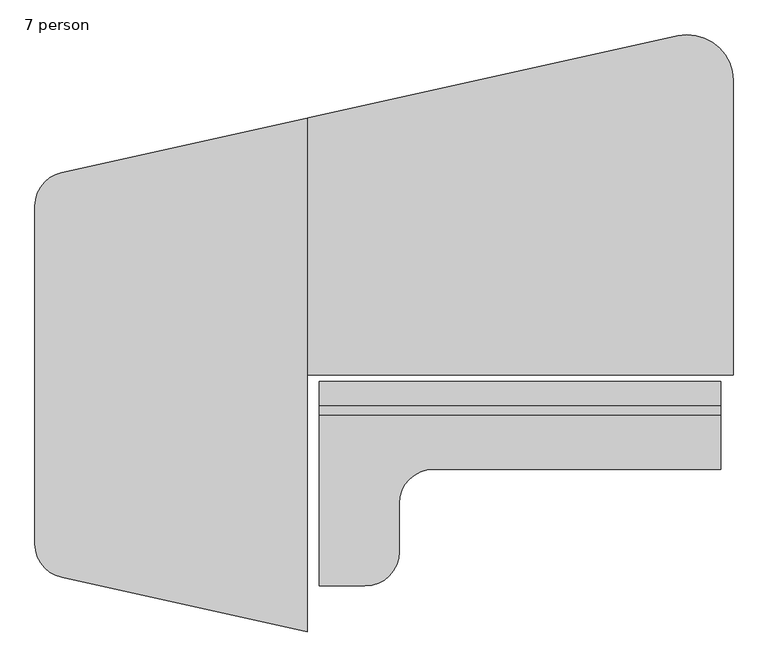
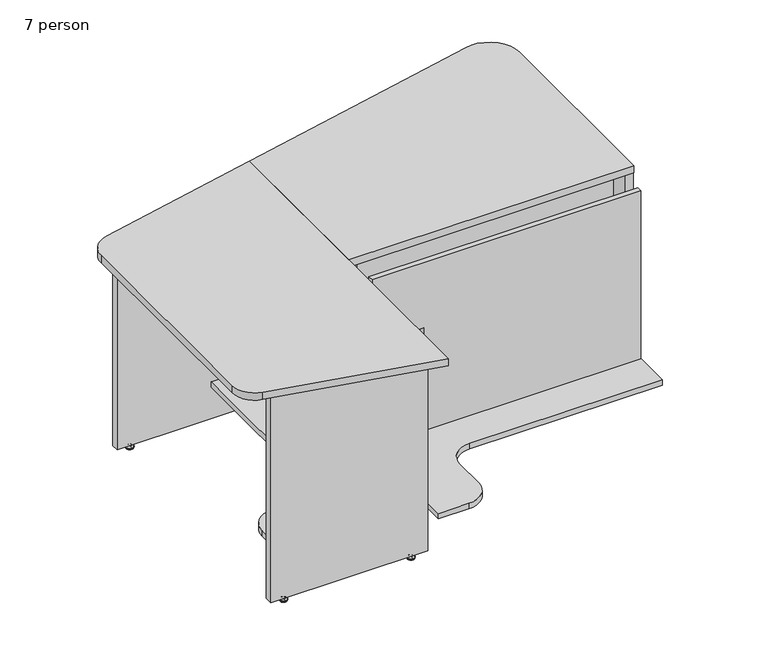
"""IFC4 building model written with IfcOpenShell, lengths in millimetres: furniture geometry, Nova Solutions - Collaboration Table - Keystone_6-7 person : 7 person."""

from ifc_helpers import new_model, si_unit, point, frame, frame_2d, origin, place, context, project, spatial, polyline, circle_curve, ellipse_curve, trimmed, segment, composite_curve, outline, extrude, source, transform, mapped, element, save
from ifc_brep_helpers import plane_surface, cylinder_surface, revolved_surface, advanced_brep


def furniture_7_person_f9d7e863(model_context):
    return source(origin(), model_context, "Body", "SolidModel", [
        extrude(outline(polyline([(430.1, 736.3), (430.1, 145.5), (-259.1, 145.5), (-259.1, 507.4), (-430.1, 507.4), (-430.1, 736.3), (430.1, 736.3)])), frame((-1506.438, 0.0, 0.0), z_axis=(1.0, 0.0, 0.0), x_axis=(0.0, 1.0, 0.0)), (0.0, 0.0, 1.0), 19.2),
        extrude(outline(composite_curve([segment(polyline([(-1431.938, 430.1), (-1431.938, -430.1), (-1875.1005, -430.1), (-1875.1005, -290.3)]), True, "CONTINUOUS"), segment(trimmed(circle_curve(frame_2d((-1798.9005, -290.3)), 76.2), [point((-1875.1005, -290.3))], [point((-1798.9005, -214.1))], False, "CARTESIAN"), True, "CONTINUOUS"), segment(polyline([(-1798.9005, -214.1), (-1704.438, -214.1)]), True, "CONTINUOUS"), segment(trimmed(circle_curve(frame_2d((-1704.438, -137.9)), 76.2), [point((-1704.438, -214.1))], [point((-1628.238, -137.9))], True, "CARTESIAN"), True, "CONTINUOUS"), segment(polyline([(-1628.238, -137.9), (-1628.238, 430.1), (-1431.938, 430.1)]), True, "CONTINUOUS")], self_intersect=False)), frame((0.0, 0.0, 126.3), z_axis=(0.0, 0.0, 1.0), x_axis=(1.0, 0.0, 0.0)), (0.0, 0.0, 1.0), 19.2),
        advanced_brep(
        [(-1892.2239375, 449.6276506, 11.1125), (-1892.2239375, 442.95, 11.1125), (-1892.2239375, 436.2723494, 11.1125), (-1892.2239375, 449.6276506, 9.525), (-1892.2239375, 436.2723494, 9.525), (-1892.2239375, 454.8355135, 4.7748687), (-1892.2239375, 431.0644865, 4.7748687), (-1892.2239375, 455.6966506, 3.989419), (-1892.2239375, 430.2033494, 3.989419), (-1892.2239375, 455.6966506, 3.175), (-1892.2239375, 430.2033494, 3.175), (-1892.2239375, 454.8459119, 0.0), (-1892.2239375, 431.0540881, 0.0), (-1892.2239375, 442.95, 0.0)],
        [
            (0, 1),
            (1, 2),
            (2, 0, circle_curve(frame((-1892.2239375, 442.95, 11.1125), z_axis=(0.0, 0.0, 1.0), x_axis=(0.0, -1.0, 0.0)), 6.6776506)),
            (0, 2, circle_curve(frame((-1892.2239375, 442.95, 11.1125), z_axis=(0.0, 0.0, 1.0), x_axis=(0.0, -1.0, 0.0)), 6.6776506)),
            (3, 0),
            (2, 4),
            (4, 3, circle_curve(frame((-1892.2239375, 442.95, 9.525), z_axis=(0.0, 0.0, 1.0), x_axis=(0.0, -1.0, 0.0)), 6.6776506)),
            (3, 4, circle_curve(frame((-1892.2239375, 442.95, 9.525), z_axis=(0.0, 0.0, 1.0), x_axis=(0.0, -1.0, 0.0)), 6.6776506)),
            (5, 3, circle_curve(frame((-1892.2239375, 455.8820627, 11.1521822), z_axis=(-1.0, 0.0, 0.0), x_axis=(0.0, -1.0, 0.0)), 6.462615)),
            (4, 6, circle_curve(frame((-1892.2239375, 430.0179373, 11.1521822), z_axis=(-1.0, 0.0, 0.0), x_axis=(0.0, 1.0, 0.0)), 6.462615)),
            (6, 5, circle_curve(frame((-1892.2239375, 442.95, 4.7748687), z_axis=(0.0, 0.0, 1.0), x_axis=(0.0, -1.0, 0.0)), 11.8855135)),
            (5, 6, circle_curve(frame((-1892.2239375, 442.95, 4.7748687), z_axis=(0.0, 0.0, 1.0), x_axis=(0.0, -1.0, 0.0)), 11.8855135)),
            (7, 5, circle_curve(frame((-1892.2239375, 454.6624632, 3.7203591), z_axis=(1.0, 0.0, 0.0), x_axis=(0.0, -1.0, 0.0)), 1.0686145)),
            (6, 8, circle_curve(frame((-1892.2239375, 431.2375368, 3.7203591), z_axis=(1.0, 0.0, 0.0), x_axis=(0.0, 1.0, 0.0)), 1.0686145)),
            (8, 7, circle_curve(frame((-1892.2239375, 442.95, 3.989419), z_axis=(0.0, 0.0, 1.0), x_axis=(0.0, -1.0, 0.0)), 12.7466506)),
            (7, 8, circle_curve(frame((-1892.2239375, 442.95, 3.989419), z_axis=(0.0, 0.0, 1.0), x_axis=(0.0, -1.0, 0.0)), 12.7466506)),
            (9, 7),
            (8, 10),
            (10, 9, circle_curve(frame((-1892.2239375, 442.95, 3.175), z_axis=(0.0, 0.0, 1.0), x_axis=(0.0, -1.0, 0.0)), 12.7466506)),
            (9, 10, circle_curve(frame((-1892.2239375, 442.95, 3.175), z_axis=(0.0, 0.0, 1.0), x_axis=(0.0, -1.0, 0.0)), 12.7466506)),
            (11, 9),
            (10, 12),
            (12, 11, circle_curve(frame((-1892.2239375, 442.95, 0.0), z_axis=(0.0, 0.0, 1.0), x_axis=(0.0, -1.0, 0.0)), 11.8959119)),
            (11, 12, circle_curve(frame((-1892.2239375, 442.95, 0.0), z_axis=(0.0, 0.0, 1.0), x_axis=(0.0, -1.0, 0.0)), 11.8959119)),
            (13, 11),
            (12, 13),
        ],
        [
            plane_surface(frame((-1892.2239375, 442.95, 11.1125), z_axis=(0.0, 0.0, 1.0), x_axis=(0.0, -1.0, 0.0))),
            cylinder_surface(frame((-1892.2239375, 442.95, 43.2095994), z_axis=(0.0, 0.0, -1.0), x_axis=(0.0, -1.0, 0.0)), 6.6776506),
            revolved_surface(trimmed(ellipse_curve(frame((-1892.2239375, 430.0179373, 11.1521822), z_axis=(-1.0, 0.0, 0.0), x_axis=(0.0, 1.0, 0.0)), 6.462615, 6.462615), [point((-1892.2239375, 436.2723494, 9.525))], [point((-1892.2239375, 431.0644865, 4.7748687))], True, "CARTESIAN"), (-1892.2239375, 442.95, 43.2095994), (0.0, 0.0, -1.0)),
            revolved_surface(trimmed(ellipse_curve(frame((-1892.2239375, 431.2375368, 3.7203591), z_axis=(1.0, 0.0, 0.0), x_axis=(0.0, 1.0, 0.0)), 1.0686145, 1.0686145), [point((-1892.2239375, 431.0644865, 4.7748687))], [point((-1892.2239375, 430.2033494, 3.989419))], True, "CARTESIAN"), (-1892.2239375, 442.95, 43.2095994), (0.0, 0.0, -1.0)),
            cylinder_surface(frame((-1892.2239375, 442.95, 43.2095994), z_axis=(0.0, 0.0, -1.0), x_axis=(0.0, -1.0, 0.0)), 12.7466506),
            revolved_surface(polyline([(-1892.2239375, 430.2033494, 3.175), (-1892.2239375, 431.0540881, 0.0)]), (-1892.2239375, 442.95, 43.2095994), (0.0, 0.0, -1.0)),
            plane_surface(frame((-1892.2239375, 442.95, 0.0), z_axis=(0.0, 0.0, -1.0), x_axis=(0.0, -1.0, 0.0))),
        ],
        [
            (0, [[1, 2, 3]]),
            (0, [[-2, -1, 4]]),
            (1, [[5, -3, 6, 7]]),
            (1, [[-6, -4, -5, 8]]),
            (2, [[9, -7, 10, 11]]),
            (2, [[-10, -8, -9, 12]]),
            (3, [[13, -11, 14, 15]]),
            (3, [[-14, -12, -13, 16]]),
            (4, [[17, -15, 18, 19]]),
            (4, [[-18, -16, -17, 20]]),
            (5, [[21, -19, 22, 23]]),
            (5, [[-22, -20, -21, 24]]),
            (6, [[25, -23, 26]]),
            (6, [[-26, -24, -25]]),
        ],
    ),
        advanced_brep(
        [(-1468.2520625, 449.6276506, 11.1125), (-1468.2520625, 442.95, 11.1125), (-1468.2520625, 436.2723494, 11.1125), (-1468.2520625, 449.6276506, 9.525), (-1468.2520625, 436.2723494, 9.525), (-1468.2520625, 454.8355135, 4.7748687), (-1468.2520625, 431.0644865, 4.7748687), (-1468.2520625, 455.6966506, 3.989419), (-1468.2520625, 430.2033494, 3.989419), (-1468.2520625, 455.6966506, 3.175), (-1468.2520625, 430.2033494, 3.175), (-1468.2520625, 454.8459119, 0.0), (-1468.2520625, 431.0540881, 0.0), (-1468.2520625, 442.95, 0.0)],
        [
            (0, 1),
            (1, 2),
            (2, 0, circle_curve(frame((-1468.2520625, 442.95, 11.1125), z_axis=(0.0, 0.0, 1.0), x_axis=(0.0, -1.0, 0.0)), 6.6776506)),
            (0, 2, circle_curve(frame((-1468.2520625, 442.95, 11.1125), z_axis=(0.0, 0.0, 1.0), x_axis=(0.0, -1.0, 0.0)), 6.6776506)),
            (3, 0),
            (2, 4),
            (4, 3, circle_curve(frame((-1468.2520625, 442.95, 9.525), z_axis=(0.0, 0.0, 1.0), x_axis=(0.0, -1.0, 0.0)), 6.6776506)),
            (3, 4, circle_curve(frame((-1468.2520625, 442.95, 9.525), z_axis=(0.0, 0.0, 1.0), x_axis=(0.0, -1.0, 0.0)), 6.6776506)),
            (5, 3, circle_curve(frame((-1468.2520625, 455.8820627, 11.1521822), z_axis=(-1.0, 0.0, 0.0), x_axis=(0.0, -1.0, 0.0)), 6.462615)),
            (4, 6, circle_curve(frame((-1468.2520625, 430.0179373, 11.1521822), z_axis=(-1.0, 0.0, 0.0), x_axis=(0.0, 1.0, 0.0)), 6.462615)),
            (6, 5, circle_curve(frame((-1468.2520625, 442.95, 4.7748687), z_axis=(0.0, 0.0, 1.0), x_axis=(0.0, -1.0, 0.0)), 11.8855135)),
            (5, 6, circle_curve(frame((-1468.2520625, 442.95, 4.7748687), z_axis=(0.0, 0.0, 1.0), x_axis=(0.0, -1.0, 0.0)), 11.8855135)),
            (7, 5, circle_curve(frame((-1468.2520625, 454.6624632, 3.7203591), z_axis=(1.0, 0.0, 0.0), x_axis=(0.0, -1.0, 0.0)), 1.0686145)),
            (6, 8, circle_curve(frame((-1468.2520625, 431.2375368, 3.7203591), z_axis=(1.0, 0.0, 0.0), x_axis=(0.0, 1.0, 0.0)), 1.0686145)),
            (8, 7, circle_curve(frame((-1468.2520625, 442.95, 3.989419), z_axis=(0.0, 0.0, 1.0), x_axis=(0.0, -1.0, 0.0)), 12.7466506)),
            (7, 8, circle_curve(frame((-1468.2520625, 442.95, 3.989419), z_axis=(0.0, 0.0, 1.0), x_axis=(0.0, -1.0, 0.0)), 12.7466506)),
            (9, 7),
            (8, 10),
            (10, 9, circle_curve(frame((-1468.2520625, 442.95, 3.175), z_axis=(0.0, 0.0, 1.0), x_axis=(0.0, -1.0, 0.0)), 12.7466506)),
            (9, 10, circle_curve(frame((-1468.2520625, 442.95, 3.175), z_axis=(0.0, 0.0, 1.0), x_axis=(0.0, -1.0, 0.0)), 12.7466506)),
            (11, 9),
            (10, 12),
            (12, 11, circle_curve(frame((-1468.2520625, 442.95, 0.0), z_axis=(0.0, 0.0, 1.0), x_axis=(0.0, -1.0, 0.0)), 11.8959119)),
            (11, 12, circle_curve(frame((-1468.2520625, 442.95, 0.0), z_axis=(0.0, 0.0, 1.0), x_axis=(0.0, -1.0, 0.0)), 11.8959119)),
            (13, 11),
            (12, 13),
        ],
        [
            plane_surface(frame((-1468.2520625, 442.95, 11.1125), z_axis=(0.0, 0.0, 1.0), x_axis=(0.0, -1.0, 0.0))),
            cylinder_surface(frame((-1468.2520625, 442.95, 43.2095994), z_axis=(0.0, 0.0, -1.0), x_axis=(0.0, -1.0, 0.0)), 6.6776506),
            revolved_surface(trimmed(ellipse_curve(frame((-1468.2520625, 430.0179373, 11.1521822), z_axis=(-1.0, 0.0, 0.0), x_axis=(0.0, 1.0, 0.0)), 6.462615, 6.462615), [point((-1468.2520625, 436.2723494, 9.525))], [point((-1468.2520625, 431.0644865, 4.7748687))], True, "CARTESIAN"), (-1468.2520625, 442.95, 43.2095994), (0.0, 0.0, -1.0)),
            revolved_surface(trimmed(ellipse_curve(frame((-1468.2520625, 431.2375368, 3.7203591), z_axis=(1.0, 0.0, 0.0), x_axis=(0.0, 1.0, 0.0)), 1.0686145, 1.0686145), [point((-1468.2520625, 431.0644865, 4.7748687))], [point((-1468.2520625, 430.2033494, 3.989419))], True, "CARTESIAN"), (-1468.2520625, 442.95, 43.2095994), (0.0, 0.0, -1.0)),
            cylinder_surface(frame((-1468.2520625, 442.95, 43.2095994), z_axis=(0.0, 0.0, -1.0), x_axis=(0.0, -1.0, 0.0)), 12.7466506),
            revolved_surface(polyline([(-1468.2520625, 430.2033494, 3.175), (-1468.2520625, 431.0540881, 0.0)]), (-1468.2520625, 442.95, 43.2095994), (0.0, 0.0, -1.0)),
            plane_surface(frame((-1468.2520625, 442.95, 0.0), z_axis=(0.0, 0.0, -1.0), x_axis=(0.0, -1.0, 0.0))),
        ],
        [
            (0, [[1, 2, 3]]),
            (0, [[-2, -1, 4]]),
            (1, [[5, -3, 6, 7]]),
            (1, [[-6, -4, -5, 8]]),
            (2, [[9, -7, 10, 11]]),
            (2, [[-10, -8, -9, 12]]),
            (3, [[13, -11, 14, 15]]),
            (3, [[-14, -12, -13, 16]]),
            (4, [[17, -15, 18, 19]]),
            (4, [[-18, -16, -17, 20]]),
            (5, [[21, -19, 22, 23]]),
            (5, [[-22, -20, -21, 24]]),
            (6, [[25, -23, 26]]),
            (6, [[-26, -24, -25]]),
        ],
    ),
        extrude(outline(polyline([(-1419.238, 455.8), (-1419.238, 430.1), (-1941.238, 430.1), (-1941.238, 455.8), (-1419.238, 455.8)])), frame((0.0, 0.0, 15.6), z_axis=(0.0, 0.0, 1.0), x_axis=(1.0, 0.0, 0.0)), (0.0, 0.0, 1.0), 720.7),
        advanced_brep(
        [(-1892.2239375, -449.6276506, 11.1125), (-1892.2239375, -436.2723494, 11.1125), (-1892.2239375, -442.95, 11.1125), (-1892.2239375, -449.6276506, 9.525), (-1892.2239375, -436.2723494, 9.525), (-1892.2239375, -454.8355135, 4.7748687), (-1892.2239375, -431.0644865, 4.7748687), (-1892.2239375, -455.6966506, 3.989419), (-1892.2239375, -430.2033494, 3.989419), (-1892.2239375, -455.6966506, 3.175), (-1892.2239375, -430.2033494, 3.175), (-1892.2239375, -454.8459119, 0.0), (-1892.2239375, -431.0540881, 0.0), (-1892.2239375, -442.95, 0.0)],
        [
            (0, 1, circle_curve(frame((-1892.2239375, -442.95, 11.1125), z_axis=(0.0, 0.0, 1.0), x_axis=(0.0, 1.0, 0.0)), 6.6776506)),
            (1, 2),
            (2, 0),
            (1, 0, circle_curve(frame((-1892.2239375, -442.95, 11.1125), z_axis=(0.0, 0.0, 1.0), x_axis=(0.0, 1.0, 0.0)), 6.6776506)),
            (3, 4, circle_curve(frame((-1892.2239375, -442.95, 9.525), z_axis=(0.0, 0.0, 1.0), x_axis=(0.0, 1.0, 0.0)), 6.6776506)),
            (4, 1),
            (0, 3),
            (4, 3, circle_curve(frame((-1892.2239375, -442.95, 9.525), z_axis=(0.0, 0.0, 1.0), x_axis=(0.0, 1.0, 0.0)), 6.6776506)),
            (5, 6, circle_curve(frame((-1892.2239375, -442.95, 4.7748687), z_axis=(0.0, 0.0, 1.0), x_axis=(0.0, 1.0, 0.0)), 11.8855135)),
            (6, 4, circle_curve(frame((-1892.2239375, -430.0179373, 11.1521822), z_axis=(-1.0, 0.0, 0.0), x_axis=(0.0, -1.0, 0.0)), 6.462615)),
            (3, 5, circle_curve(frame((-1892.2239375, -455.8820627, 11.1521822), z_axis=(-1.0, 0.0, 0.0), x_axis=(0.0, 1.0, 0.0)), 6.462615)),
            (6, 5, circle_curve(frame((-1892.2239375, -442.95, 4.7748687), z_axis=(0.0, 0.0, 1.0), x_axis=(0.0, 1.0, 0.0)), 11.8855135)),
            (7, 8, circle_curve(frame((-1892.2239375, -442.95, 3.989419), z_axis=(0.0, 0.0, 1.0), x_axis=(0.0, 1.0, 0.0)), 12.7466506)),
            (8, 6, circle_curve(frame((-1892.2239375, -431.2375368, 3.7203591), z_axis=(1.0, 0.0, 0.0), x_axis=(0.0, -1.0, 0.0)), 1.0686145)),
            (5, 7, circle_curve(frame((-1892.2239375, -454.6624632, 3.7203591), z_axis=(1.0, 0.0, 0.0), x_axis=(0.0, 1.0, 0.0)), 1.0686145)),
            (8, 7, circle_curve(frame((-1892.2239375, -442.95, 3.989419), z_axis=(0.0, 0.0, 1.0), x_axis=(0.0, 1.0, 0.0)), 12.7466506)),
            (9, 10, circle_curve(frame((-1892.2239375, -442.95, 3.175), z_axis=(0.0, 0.0, 1.0), x_axis=(0.0, 1.0, 0.0)), 12.7466506)),
            (10, 8),
            (7, 9),
            (10, 9, circle_curve(frame((-1892.2239375, -442.95, 3.175), z_axis=(0.0, 0.0, 1.0), x_axis=(0.0, 1.0, 0.0)), 12.7466506)),
            (11, 12, circle_curve(frame((-1892.2239375, -442.95, 0.0), z_axis=(0.0, 0.0, 1.0), x_axis=(0.0, 1.0, 0.0)), 11.8959119)),
            (12, 10),
            (9, 11),
            (12, 11, circle_curve(frame((-1892.2239375, -442.95, 0.0), z_axis=(0.0, 0.0, 1.0), x_axis=(0.0, 1.0, 0.0)), 11.8959119)),
            (13, 12),
            (11, 13),
        ],
        [
            plane_surface(frame((-1892.2239375, -442.95, 11.1125), z_axis=(0.0, 0.0, 1.0), x_axis=(0.0, 1.0, 0.0))),
            cylinder_surface(frame((-1892.2239375, -442.95, 43.2095994), z_axis=(0.0, 0.0, -1.0), x_axis=(0.0, 1.0, 0.0)), 6.6776506),
            revolved_surface(trimmed(ellipse_curve(frame((-1892.2239375, -430.0179373, 11.1521822), z_axis=(1.0, 0.0, 0.0), x_axis=(0.0, -1.0, 0.0)), 6.462615, 6.462615), [point((-1892.2239375, -436.2723494, 9.525))], [point((-1892.2239375, -431.0644865, 4.7748687))], True, "CARTESIAN"), (-1892.2239375, -442.95, 43.2095994), (0.0, 0.0, -1.0)),
            revolved_surface(trimmed(ellipse_curve(frame((-1892.2239375, -431.2375368, 3.7203591), z_axis=(-1.0, 0.0, 0.0), x_axis=(0.0, -1.0, 0.0)), 1.0686145, 1.0686145), [point((-1892.2239375, -431.0644865, 4.7748687))], [point((-1892.2239375, -430.2033494, 3.989419))], True, "CARTESIAN"), (-1892.2239375, -442.95, 43.2095994), (0.0, 0.0, -1.0)),
            cylinder_surface(frame((-1892.2239375, -442.95, 43.2095994), z_axis=(0.0, 0.0, -1.0), x_axis=(0.0, 1.0, 0.0)), 12.7466506),
            revolved_surface(polyline([(-1892.2239375, -430.2033494, 3.175), (-1892.2239375, -431.0540881, 0.0)]), (-1892.2239375, -442.95, 43.2095994), (0.0, 0.0, -1.0)),
            plane_surface(frame((-1892.2239375, -442.95, 0.0), z_axis=(0.0, 0.0, -1.0), x_axis=(0.0, 1.0, 0.0))),
        ],
        [
            (0, [[1, 2, 3]]),
            (0, [[4, -3, -2]]),
            (1, [[5, 6, -1, 7]]),
            (1, [[8, -7, -4, -6]]),
            (2, [[9, 10, -5, 11]]),
            (2, [[12, -11, -8, -10]]),
            (3, [[13, 14, -9, 15]]),
            (3, [[16, -15, -12, -14]]),
            (4, [[17, 18, -13, 19]]),
            (4, [[20, -19, -16, -18]]),
            (5, [[21, 22, -17, 23]]),
            (5, [[24, -23, -20, -22]]),
            (6, [[25, -21, 26]]),
            (6, [[-26, -24, -25]]),
        ],
    ),
        advanced_brep(
        [(-1468.2520625, -449.6276506, 11.1125), (-1468.2520625, -436.2723494, 11.1125), (-1468.2520625, -442.95, 11.1125), (-1468.2520625, -449.6276506, 9.525), (-1468.2520625, -436.2723494, 9.525), (-1468.2520625, -454.8355135, 4.7748687), (-1468.2520625, -431.0644865, 4.7748687), (-1468.2520625, -455.6966506, 3.989419), (-1468.2520625, -430.2033494, 3.989419), (-1468.2520625, -455.6966506, 3.175), (-1468.2520625, -430.2033494, 3.175), (-1468.2520625, -454.8459119, 0.0), (-1468.2520625, -431.0540881, 0.0), (-1468.2520625, -442.95, 0.0)],
        [
            (0, 1, circle_curve(frame((-1468.2520625, -442.95, 11.1125), z_axis=(0.0, 0.0, 1.0), x_axis=(0.0, 1.0, 0.0)), 6.6776506)),
            (1, 2),
            (2, 0),
            (1, 0, circle_curve(frame((-1468.2520625, -442.95, 11.1125), z_axis=(0.0, 0.0, 1.0), x_axis=(0.0, 1.0, 0.0)), 6.6776506)),
            (3, 4, circle_curve(frame((-1468.2520625, -442.95, 9.525), z_axis=(0.0, 0.0, 1.0), x_axis=(0.0, 1.0, 0.0)), 6.6776506)),
            (4, 1),
            (0, 3),
            (4, 3, circle_curve(frame((-1468.2520625, -442.95, 9.525), z_axis=(0.0, 0.0, 1.0), x_axis=(0.0, 1.0, 0.0)), 6.6776506)),
            (5, 6, circle_curve(frame((-1468.2520625, -442.95, 4.7748687), z_axis=(0.0, 0.0, 1.0), x_axis=(0.0, 1.0, 0.0)), 11.8855135)),
            (6, 4, circle_curve(frame((-1468.2520625, -430.0179373, 11.1521822), z_axis=(-1.0, 0.0, 0.0), x_axis=(0.0, -1.0, 0.0)), 6.462615)),
            (3, 5, circle_curve(frame((-1468.2520625, -455.8820627, 11.1521822), z_axis=(-1.0, 0.0, 0.0), x_axis=(0.0, 1.0, 0.0)), 6.462615)),
            (6, 5, circle_curve(frame((-1468.2520625, -442.95, 4.7748687), z_axis=(0.0, 0.0, 1.0), x_axis=(0.0, 1.0, 0.0)), 11.8855135)),
            (7, 8, circle_curve(frame((-1468.2520625, -442.95, 3.989419), z_axis=(0.0, 0.0, 1.0), x_axis=(0.0, 1.0, 0.0)), 12.7466506)),
            (8, 6, circle_curve(frame((-1468.2520625, -431.2375368, 3.7203591), z_axis=(1.0, 0.0, 0.0), x_axis=(0.0, -1.0, 0.0)), 1.0686145)),
            (5, 7, circle_curve(frame((-1468.2520625, -454.6624632, 3.7203591), z_axis=(1.0, 0.0, 0.0), x_axis=(0.0, 1.0, 0.0)), 1.0686145)),
            (8, 7, circle_curve(frame((-1468.2520625, -442.95, 3.989419), z_axis=(0.0, 0.0, 1.0), x_axis=(0.0, 1.0, 0.0)), 12.7466506)),
            (9, 10, circle_curve(frame((-1468.2520625, -442.95, 3.175), z_axis=(0.0, 0.0, 1.0), x_axis=(0.0, 1.0, 0.0)), 12.7466506)),
            (10, 8),
            (7, 9),
            (10, 9, circle_curve(frame((-1468.2520625, -442.95, 3.175), z_axis=(0.0, 0.0, 1.0), x_axis=(0.0, 1.0, 0.0)), 12.7466506)),
            (11, 12, circle_curve(frame((-1468.2520625, -442.95, 0.0), z_axis=(0.0, 0.0, 1.0), x_axis=(0.0, 1.0, 0.0)), 11.8959119)),
            (12, 10),
            (9, 11),
            (12, 11, circle_curve(frame((-1468.2520625, -442.95, 0.0), z_axis=(0.0, 0.0, 1.0), x_axis=(0.0, 1.0, 0.0)), 11.8959119)),
            (13, 12),
            (11, 13),
        ],
        [
            plane_surface(frame((-1468.2520625, -442.95, 11.1125), z_axis=(0.0, 0.0, 1.0), x_axis=(0.0, 1.0, 0.0))),
            cylinder_surface(frame((-1468.2520625, -442.95, 43.2095994), z_axis=(0.0, 0.0, -1.0), x_axis=(0.0, 1.0, 0.0)), 6.6776506),
            revolved_surface(trimmed(ellipse_curve(frame((-1468.2520625, -430.0179373, 11.1521822), z_axis=(1.0, 0.0, 0.0), x_axis=(0.0, -1.0, 0.0)), 6.462615, 6.462615), [point((-1468.2520625, -436.2723494, 9.525))], [point((-1468.2520625, -431.0644865, 4.7748687))], True, "CARTESIAN"), (-1468.2520625, -442.95, 43.2095994), (0.0, 0.0, -1.0)),
            revolved_surface(trimmed(ellipse_curve(frame((-1468.2520625, -431.2375368, 3.7203591), z_axis=(-1.0, 0.0, 0.0), x_axis=(0.0, -1.0, 0.0)), 1.0686145, 1.0686145), [point((-1468.2520625, -431.0644865, 4.7748687))], [point((-1468.2520625, -430.2033494, 3.989419))], True, "CARTESIAN"), (-1468.2520625, -442.95, 43.2095994), (0.0, 0.0, -1.0)),
            cylinder_surface(frame((-1468.2520625, -442.95, 43.2095994), z_axis=(0.0, 0.0, -1.0), x_axis=(0.0, 1.0, 0.0)), 12.7466506),
            revolved_surface(polyline([(-1468.2520625, -430.2033494, 3.175), (-1468.2520625, -431.0540881, 0.0)]), (-1468.2520625, -442.95, 43.2095994), (0.0, 0.0, -1.0)),
            plane_surface(frame((-1468.2520625, -442.95, 0.0), z_axis=(0.0, 0.0, -1.0), x_axis=(0.0, 1.0, 0.0))),
        ],
        [
            (0, [[1, 2, 3]]),
            (0, [[4, -3, -2]]),
            (1, [[5, 6, -1, 7]]),
            (1, [[8, -7, -4, -6]]),
            (2, [[9, 10, -5, 11]]),
            (2, [[12, -11, -8, -10]]),
            (3, [[13, 14, -9, 15]]),
            (3, [[16, -15, -12, -14]]),
            (4, [[17, 18, -13, 19]]),
            (4, [[20, -19, -16, -18]]),
            (5, [[21, 22, -17, 23]]),
            (5, [[24, -23, -20, -22]]),
            (6, [[25, -21, 26]]),
            (6, [[-26, -24, -25]]),
        ],
    ),
        extrude(outline(polyline([(-1419.238, -455.8), (-1941.238, -455.8), (-1941.238, -430.1), (-1419.238, -430.1), (-1419.238, -455.8)])), frame((0.0, 0.0, 15.6), z_axis=(0.0, 0.0, 1.0), x_axis=(1.0, 0.0, 0.0)), (0.0, 0.0, 1.0), 720.7),
        extrude(outline(composite_curve([segment(polyline([(-1419.238, 572.7129765), (-1419.238, -572.687814), (-1965.3405031, -451.5115625)]), True, "CONTINUOUS"), segment(trimmed(circle_curve(frame_2d((-1948.6604516, -376.3399197)), 77.0), [point((-1965.3405031, -451.5115625))], [point((-2025.6604516, -376.3415173))], False, "CARTESIAN"), True, "CONTINUOUS"), segment(polyline([(-2025.6604516, -376.3415173), (-2025.6760684, 376.3600213)]), True, "CONTINUOUS"), segment(trimmed(circle_curve(frame_2d((-1948.6760685, 376.3616189)), 77.0), [point((-2025.6760684, 376.3600213))], [point((-1965.3561197, 451.5332617))], False, "CARTESIAN"), True, "CONTINUOUS"), segment(polyline([(-1965.3561197, 451.5332617), (-1419.238, 572.7129765)]), True, "CONTINUOUS")], self_intersect=False)), frame((0.0, 0.0, 736.3), z_axis=(0.0, 0.0, 1.0), x_axis=(1.0, 0.0, 0.0)), (0.0, 0.0, 1.0), 25.7),
        extrude(outline(polyline([(736.3, -497.838), (736.3, -1392.138), (507.4, -1392.138), (507.4, -1221.138), (145.5, -1221.138), (145.5, -497.838), (736.3, -497.838)])), frame((0.0, 69.345, 0.0), z_axis=(0.0, 1.0, 0.0), x_axis=(0.0, 0.0, 1.0)), (0.0, 0.0, 1.0), 19.2),
        extrude(outline(composite_curve([segment(polyline([(-1392.138, 469.9075), (-1290.538, 469.9075)]), True, "CONTINUOUS"), segment(trimmed(circle_curve(frame_2d((-1290.538, 393.7075)), 76.2), [point((-1290.538, 469.9075))], [point((-1214.338, 393.7075))], False, "CARTESIAN"), True, "CONTINUOUS"), segment(polyline([(-1214.338, 393.7075), (-1214.338, 286.545)]), True, "CONTINUOUS"), segment(trimmed(circle_curve(frame_2d((-1138.138, 286.545)), 76.2), [point((-1214.338, 286.545))], [point((-1138.138, 210.345))], True, "CARTESIAN"), True, "CONTINUOUS"), segment(polyline([(-1138.138, 210.345), (-497.838, 210.345), (-497.838, 14.045), (-1392.138, 14.045), (-1392.138, 469.9075)]), True, "CONTINUOUS")], self_intersect=False)), frame((0.0, 0.0, 126.3), z_axis=(0.0, 0.0, 1.0), x_axis=(1.0, 0.0, 0.0)), (0.0, 0.0, 1.0), 19.2),
        advanced_brep(
        [(-1411.6656506, 474.3309375, 11.1125), (-1398.3103494, 474.3309375, 11.1125), (-1404.988, 474.3309375, 11.1125), (-1411.6656506, 474.3309375, 9.525), (-1398.3103494, 474.3309375, 9.525), (-1416.8735135, 474.3309375, 4.7748687), (-1393.1024865, 474.3309375, 4.7748687), (-1417.7346506, 474.3309375, 3.989419), (-1392.2413494, 474.3309375, 3.989419), (-1417.7346506, 474.3309375, 3.175), (-1392.2413494, 474.3309375, 3.175), (-1416.8839119, 474.3309375, 0.0), (-1393.0920881, 474.3309375, 0.0), (-1404.988, 474.3309375, 0.0)],
        [
            (0, 1, circle_curve(frame((-1404.988, 474.3309375, 11.1125), z_axis=(0.0, 0.0, 1.0), x_axis=(1.0, 0.0, 0.0)), 6.6776506)),
            (1, 2),
            (2, 0),
            (1, 0, circle_curve(frame((-1404.988, 474.3309375, 11.1125), z_axis=(0.0, 0.0, 1.0), x_axis=(1.0, 0.0, 0.0)), 6.6776506)),
            (3, 4, circle_curve(frame((-1404.988, 474.3309375, 9.525), z_axis=(0.0, 0.0, 1.0), x_axis=(1.0, 0.0, 0.0)), 6.6776506)),
            (4, 1),
            (0, 3),
            (4, 3, circle_curve(frame((-1404.988, 474.3309375, 9.525), z_axis=(0.0, 0.0, 1.0), x_axis=(1.0, 0.0, 0.0)), 6.6776506)),
            (5, 6, circle_curve(frame((-1404.988, 474.3309375, 4.7748687), z_axis=(0.0, 0.0, 1.0), x_axis=(1.0, 0.0, 0.0)), 11.8855135)),
            (6, 4, circle_curve(frame((-1392.0559373, 474.3309375, 11.1521822), z_axis=(0.0, 1.0, 0.0), x_axis=(-1.0, 0.0, 0.0)), 6.462615)),
            (3, 5, circle_curve(frame((-1417.9200627, 474.3309375, 11.1521822), z_axis=(0.0, 1.0, 0.0), x_axis=(1.0, 0.0, 0.0)), 6.462615)),
            (6, 5, circle_curve(frame((-1404.988, 474.3309375, 4.7748687), z_axis=(0.0, 0.0, 1.0), x_axis=(1.0, 0.0, 0.0)), 11.8855135)),
            (7, 8, circle_curve(frame((-1404.988, 474.3309375, 3.989419), z_axis=(0.0, 0.0, 1.0), x_axis=(1.0, 0.0, 0.0)), 12.7466506)),
            (8, 6, circle_curve(frame((-1393.2755368, 474.3309375, 3.7203591), z_axis=(0.0, -1.0, 0.0), x_axis=(-1.0, 0.0, 0.0)), 1.0686145)),
            (5, 7, circle_curve(frame((-1416.7004632, 474.3309375, 3.7203591), z_axis=(0.0, -1.0, 0.0), x_axis=(1.0, 0.0, 0.0)), 1.0686145)),
            (8, 7, circle_curve(frame((-1404.988, 474.3309375, 3.989419), z_axis=(0.0, 0.0, 1.0), x_axis=(1.0, 0.0, 0.0)), 12.7466506)),
            (9, 10, circle_curve(frame((-1404.988, 474.3309375, 3.175), z_axis=(0.0, 0.0, 1.0), x_axis=(1.0, 0.0, 0.0)), 12.7466506)),
            (10, 8),
            (7, 9),
            (10, 9, circle_curve(frame((-1404.988, 474.3309375, 3.175), z_axis=(0.0, 0.0, 1.0), x_axis=(1.0, 0.0, 0.0)), 12.7466506)),
            (11, 12, circle_curve(frame((-1404.988, 474.3309375, 0.0), z_axis=(0.0, 0.0, 1.0), x_axis=(1.0, 0.0, 0.0)), 11.8959119)),
            (12, 10),
            (9, 11),
            (12, 11, circle_curve(frame((-1404.988, 474.3309375, 0.0), z_axis=(0.0, 0.0, 1.0), x_axis=(1.0, 0.0, 0.0)), 11.8959119)),
            (13, 12),
            (11, 13),
        ],
        [
            plane_surface(frame((-1404.988, 474.3309375, 11.1125), z_axis=(0.0, 0.0, 1.0), x_axis=(1.0, 0.0, 0.0))),
            cylinder_surface(frame((-1404.988, 474.3309375, 43.2095994), z_axis=(0.0, 0.0, -1.0), x_axis=(1.0, 0.0, 0.0)), 6.6776506),
            revolved_surface(trimmed(ellipse_curve(frame((-1392.0559373, 474.3309375, 11.1521822), z_axis=(0.0, -1.0, 0.0), x_axis=(-1.0, 0.0, 0.0)), 6.462615, 6.462615), [point((-1398.3103494, 474.3309375, 9.525))], [point((-1393.1024865, 474.3309375, 4.7748687))], True, "CARTESIAN"), (-1404.988, 474.3309375, 43.2095994), (0.0, 0.0, -1.0)),
            revolved_surface(trimmed(ellipse_curve(frame((-1393.2755368, 474.3309375, 3.7203591), z_axis=(0.0, 1.0, 0.0), x_axis=(-1.0, 0.0, 0.0)), 1.0686145, 1.0686145), [point((-1393.1024865, 474.3309375, 4.7748687))], [point((-1392.2413494, 474.3309375, 3.989419))], True, "CARTESIAN"), (-1404.988, 474.3309375, 43.2095994), (0.0, 0.0, -1.0)),
            cylinder_surface(frame((-1404.988, 474.3309375, 43.2095994), z_axis=(0.0, 0.0, -1.0), x_axis=(1.0, 0.0, 0.0)), 12.7466506),
            revolved_surface(polyline([(-1392.2413494, 474.3309375, 3.175), (-1393.0920881, 474.3309375, 0.0)]), (-1404.988, 474.3309375, 43.2095994), (0.0, 0.0, -1.0)),
            plane_surface(frame((-1404.988, 474.3309375, 0.0), z_axis=(0.0, 0.0, -1.0), x_axis=(1.0, 0.0, 0.0))),
        ],
        [
            (0, [[1, 2, 3]]),
            (0, [[4, -3, -2]]),
            (1, [[5, 6, -1, 7]]),
            (1, [[8, -7, -4, -6]]),
            (2, [[9, 10, -5, 11]]),
            (2, [[12, -11, -8, -10]]),
            (3, [[13, 14, -9, 15]]),
            (3, [[16, -15, -12, -14]]),
            (4, [[17, 18, -13, 19]]),
            (4, [[20, -19, -16, -18]]),
            (5, [[21, 22, -17, 23]]),
            (5, [[24, -23, -20, -22]]),
            (6, [[25, -21, 26]]),
            (6, [[-26, -24, -25]]),
        ],
    ),
        advanced_brep(
        [(-1411.6656506, 50.3590625, 11.1125), (-1398.3103494, 50.3590625, 11.1125), (-1404.988, 50.3590625, 11.1125), (-1411.6656506, 50.3590625, 9.525), (-1398.3103494, 50.3590625, 9.525), (-1416.8735135, 50.3590625, 4.7748687), (-1393.1024865, 50.3590625, 4.7748687), (-1417.7346506, 50.3590625, 3.989419), (-1392.2413494, 50.3590625, 3.989419), (-1417.7346506, 50.3590625, 3.175), (-1392.2413494, 50.3590625, 3.175), (-1416.8839119, 50.3590625, 0.0), (-1393.0920881, 50.3590625, 0.0), (-1404.988, 50.3590625, 0.0)],
        [
            (0, 1, circle_curve(frame((-1404.988, 50.3590625, 11.1125), z_axis=(0.0, 0.0, 1.0), x_axis=(1.0, 0.0, 0.0)), 6.6776506)),
            (1, 2),
            (2, 0),
            (1, 0, circle_curve(frame((-1404.988, 50.3590625, 11.1125), z_axis=(0.0, 0.0, 1.0), x_axis=(1.0, 0.0, 0.0)), 6.6776506)),
            (3, 4, circle_curve(frame((-1404.988, 50.3590625, 9.525), z_axis=(0.0, 0.0, 1.0), x_axis=(1.0, 0.0, 0.0)), 6.6776506)),
            (4, 1),
            (0, 3),
            (4, 3, circle_curve(frame((-1404.988, 50.3590625, 9.525), z_axis=(0.0, 0.0, 1.0), x_axis=(1.0, 0.0, 0.0)), 6.6776506)),
            (5, 6, circle_curve(frame((-1404.988, 50.3590625, 4.7748687), z_axis=(0.0, 0.0, 1.0), x_axis=(1.0, 0.0, 0.0)), 11.8855135)),
            (6, 4, circle_curve(frame((-1392.0559373, 50.3590625, 11.1521822), z_axis=(0.0, 1.0, 0.0), x_axis=(-1.0, 0.0, 0.0)), 6.462615)),
            (3, 5, circle_curve(frame((-1417.9200627, 50.3590625, 11.1521822), z_axis=(0.0, 1.0, 0.0), x_axis=(1.0, 0.0, 0.0)), 6.462615)),
            (6, 5, circle_curve(frame((-1404.988, 50.3590625, 4.7748687), z_axis=(0.0, 0.0, 1.0), x_axis=(1.0, 0.0, 0.0)), 11.8855135)),
            (7, 8, circle_curve(frame((-1404.988, 50.3590625, 3.989419), z_axis=(0.0, 0.0, 1.0), x_axis=(1.0, 0.0, 0.0)), 12.7466506)),
            (8, 6, circle_curve(frame((-1393.2755368, 50.3590625, 3.7203591), z_axis=(0.0, -1.0, 0.0), x_axis=(-1.0, 0.0, 0.0)), 1.0686145)),
            (5, 7, circle_curve(frame((-1416.7004632, 50.3590625, 3.7203591), z_axis=(0.0, -1.0, 0.0), x_axis=(1.0, 0.0, 0.0)), 1.0686145)),
            (8, 7, circle_curve(frame((-1404.988, 50.3590625, 3.989419), z_axis=(0.0, 0.0, 1.0), x_axis=(1.0, 0.0, 0.0)), 12.7466506)),
            (9, 10, circle_curve(frame((-1404.988, 50.3590625, 3.175), z_axis=(0.0, 0.0, 1.0), x_axis=(1.0, 0.0, 0.0)), 12.7466506)),
            (10, 8),
            (7, 9),
            (10, 9, circle_curve(frame((-1404.988, 50.3590625, 3.175), z_axis=(0.0, 0.0, 1.0), x_axis=(1.0, 0.0, 0.0)), 12.7466506)),
            (11, 12, circle_curve(frame((-1404.988, 50.3590625, 0.0), z_axis=(0.0, 0.0, 1.0), x_axis=(1.0, 0.0, 0.0)), 11.8959119)),
            (12, 10),
            (9, 11),
            (12, 11, circle_curve(frame((-1404.988, 50.3590625, 0.0), z_axis=(0.0, 0.0, 1.0), x_axis=(1.0, 0.0, 0.0)), 11.8959119)),
            (13, 12),
            (11, 13),
        ],
        [
            plane_surface(frame((-1404.988, 50.3590625, 11.1125), z_axis=(0.0, 0.0, 1.0), x_axis=(1.0, 0.0, 0.0))),
            cylinder_surface(frame((-1404.988, 50.3590625, 43.2095994), z_axis=(0.0, 0.0, -1.0), x_axis=(1.0, 0.0, 0.0)), 6.6776506),
            revolved_surface(trimmed(ellipse_curve(frame((-1392.0559373, 50.3590625, 11.1521822), z_axis=(0.0, -1.0, 0.0), x_axis=(-1.0, 0.0, 0.0)), 6.462615, 6.462615), [point((-1398.3103494, 50.3590625, 9.525))], [point((-1393.1024865, 50.3590625, 4.7748687))], True, "CARTESIAN"), (-1404.988, 50.3590625, 43.2095994), (0.0, 0.0, -1.0)),
            revolved_surface(trimmed(ellipse_curve(frame((-1393.2755368, 50.3590625, 3.7203591), z_axis=(0.0, 1.0, 0.0), x_axis=(-1.0, 0.0, 0.0)), 1.0686145, 1.0686145), [point((-1393.1024865, 50.3590625, 4.7748687))], [point((-1392.2413494, 50.3590625, 3.989419))], True, "CARTESIAN"), (-1404.988, 50.3590625, 43.2095994), (0.0, 0.0, -1.0)),
            cylinder_surface(frame((-1404.988, 50.3590625, 43.2095994), z_axis=(0.0, 0.0, -1.0), x_axis=(1.0, 0.0, 0.0)), 12.7466506),
            revolved_surface(polyline([(-1392.2413494, 50.3590625, 3.175), (-1393.0920881, 50.3590625, 0.0)]), (-1404.988, 50.3590625, 43.2095994), (0.0, 0.0, -1.0)),
            plane_surface(frame((-1404.988, 50.3590625, 0.0), z_axis=(0.0, 0.0, -1.0), x_axis=(1.0, 0.0, 0.0))),
        ],
        [
            (0, [[1, 2, 3]]),
            (0, [[4, -3, -2]]),
            (1, [[5, 6, -1, 7]]),
            (1, [[8, -7, -4, -6]]),
            (2, [[9, 10, -5, 11]]),
            (2, [[12, -11, -8, -10]]),
            (3, [[13, 14, -9, 15]]),
            (3, [[16, -15, -12, -14]]),
            (4, [[17, 18, -13, 19]]),
            (4, [[20, -19, -16, -18]]),
            (5, [[21, 22, -17, 23]]),
            (5, [[24, -23, -20, -22]]),
            (6, [[25, -21, 26]]),
            (6, [[-26, -24, -25]]),
        ],
    ),
        extrude(outline(polyline([(-1417.838, 1.345), (-1417.838, 523.345), (-1392.138, 523.345), (-1392.138, 1.345), (-1417.838, 1.345)])), frame((0.0, 0.0, 15.6), z_axis=(0.0, 0.0, 1.0), x_axis=(1.0, 0.0, 0.0)), (0.0, 0.0, 1.0), 720.7),
        advanced_brep(
        [(-478.3103494, 474.3309375, 11.1125), (-484.988, 474.3309375, 11.1125), (-491.6656506, 474.3309375, 11.1125), (-478.3103494, 474.3309375, 9.525), (-491.6656506, 474.3309375, 9.525), (-473.1024865, 474.3309375, 4.7748687), (-496.8735135, 474.3309375, 4.7748687), (-472.2413494, 474.3309375, 3.989419), (-497.7346506, 474.3309375, 3.989419), (-472.2413494, 474.3309375, 3.175), (-497.7346506, 474.3309375, 3.175), (-473.0920881, 474.3309375, 0.0), (-496.8839119, 474.3309375, 0.0), (-484.988, 474.3309375, 0.0)],
        [
            (0, 1),
            (1, 2),
            (2, 0, circle_curve(frame((-484.988, 474.3309375, 11.1125), z_axis=(0.0, 0.0, 1.0), x_axis=(-1.0, 0.0, 0.0)), 6.6776506)),
            (0, 2, circle_curve(frame((-484.988, 474.3309375, 11.1125), z_axis=(0.0, 0.0, 1.0), x_axis=(-1.0, 0.0, 0.0)), 6.6776506)),
            (3, 0),
            (2, 4),
            (4, 3, circle_curve(frame((-484.988, 474.3309375, 9.525), z_axis=(0.0, 0.0, 1.0), x_axis=(-1.0, 0.0, 0.0)), 6.6776506)),
            (3, 4, circle_curve(frame((-484.988, 474.3309375, 9.525), z_axis=(0.0, 0.0, 1.0), x_axis=(-1.0, 0.0, 0.0)), 6.6776506)),
            (5, 3, circle_curve(frame((-472.0559373, 474.3309375, 11.1521822), z_axis=(0.0, 1.0, 0.0), x_axis=(-1.0, 0.0, 0.0)), 6.462615)),
            (4, 6, circle_curve(frame((-497.9200627, 474.3309375, 11.1521822), z_axis=(0.0, 1.0, 0.0), x_axis=(1.0, 0.0, 0.0)), 6.462615)),
            (6, 5, circle_curve(frame((-484.988, 474.3309375, 4.7748687), z_axis=(0.0, 0.0, 1.0), x_axis=(-1.0, 0.0, 0.0)), 11.8855135)),
            (5, 6, circle_curve(frame((-484.988, 474.3309375, 4.7748687), z_axis=(0.0, 0.0, 1.0), x_axis=(-1.0, 0.0, 0.0)), 11.8855135)),
            (7, 5, circle_curve(frame((-473.2755368, 474.3309375, 3.7203591), z_axis=(0.0, -1.0, 0.0), x_axis=(-1.0, 0.0, 0.0)), 1.0686145)),
            (6, 8, circle_curve(frame((-496.7004632, 474.3309375, 3.7203591), z_axis=(0.0, -1.0, 0.0), x_axis=(1.0, 0.0, 0.0)), 1.0686145)),
            (8, 7, circle_curve(frame((-484.988, 474.3309375, 3.989419), z_axis=(0.0, 0.0, 1.0), x_axis=(-1.0, 0.0, 0.0)), 12.7466506)),
            (7, 8, circle_curve(frame((-484.988, 474.3309375, 3.989419), z_axis=(0.0, 0.0, 1.0), x_axis=(-1.0, 0.0, 0.0)), 12.7466506)),
            (9, 7),
            (8, 10),
            (10, 9, circle_curve(frame((-484.988, 474.3309375, 3.175), z_axis=(0.0, 0.0, 1.0), x_axis=(-1.0, 0.0, 0.0)), 12.7466506)),
            (9, 10, circle_curve(frame((-484.988, 474.3309375, 3.175), z_axis=(0.0, 0.0, 1.0), x_axis=(-1.0, 0.0, 0.0)), 12.7466506)),
            (11, 9),
            (10, 12),
            (12, 11, circle_curve(frame((-484.988, 474.3309375, 0.0), z_axis=(0.0, 0.0, 1.0), x_axis=(-1.0, 0.0, 0.0)), 11.8959119)),
            (11, 12, circle_curve(frame((-484.988, 474.3309375, 0.0), z_axis=(0.0, 0.0, 1.0), x_axis=(-1.0, 0.0, 0.0)), 11.8959119)),
            (13, 11),
            (12, 13),
        ],
        [
            plane_surface(frame((-484.988, 474.3309375, 11.1125), z_axis=(0.0, 0.0, 1.0), x_axis=(-1.0, 0.0, 0.0))),
            cylinder_surface(frame((-484.988, 474.3309375, 43.2095994), z_axis=(0.0, 0.0, -1.0), x_axis=(-1.0, 0.0, 0.0)), 6.6776506),
            revolved_surface(trimmed(ellipse_curve(frame((-497.9200627, 474.3309375, 11.1521822), z_axis=(0.0, 1.0, 0.0), x_axis=(1.0, 0.0, 0.0)), 6.462615, 6.462615), [point((-491.6656506, 474.3309375, 9.525))], [point((-496.8735135, 474.3309375, 4.7748687))], True, "CARTESIAN"), (-484.988, 474.3309375, 43.2095994), (0.0, 0.0, -1.0)),
            revolved_surface(trimmed(ellipse_curve(frame((-496.7004632, 474.3309375, 3.7203591), z_axis=(0.0, -1.0, 0.0), x_axis=(1.0, 0.0, 0.0)), 1.0686145, 1.0686145), [point((-496.8735135, 474.3309375, 4.7748687))], [point((-497.7346506, 474.3309375, 3.989419))], True, "CARTESIAN"), (-484.988, 474.3309375, 43.2095994), (0.0, 0.0, -1.0)),
            cylinder_surface(frame((-484.988, 474.3309375, 43.2095994), z_axis=(0.0, 0.0, -1.0), x_axis=(-1.0, 0.0, 0.0)), 12.7466506),
            revolved_surface(polyline([(-497.7346506, 474.3309375, 3.175), (-496.8839119, 474.3309375, 0.0)]), (-484.988, 474.3309375, 43.2095994), (0.0, 0.0, -1.0)),
            plane_surface(frame((-484.988, 474.3309375, 0.0), z_axis=(0.0, 0.0, -1.0), x_axis=(-1.0, 0.0, 0.0))),
        ],
        [
            (0, [[1, 2, 3]]),
            (0, [[-2, -1, 4]]),
            (1, [[5, -3, 6, 7]]),
            (1, [[-6, -4, -5, 8]]),
            (2, [[9, -7, 10, 11]]),
            (2, [[-10, -8, -9, 12]]),
            (3, [[13, -11, 14, 15]]),
            (3, [[-14, -12, -13, 16]]),
            (4, [[17, -15, 18, 19]]),
            (4, [[-18, -16, -17, 20]]),
            (5, [[21, -19, 22, 23]]),
            (5, [[-22, -20, -21, 24]]),
            (6, [[25, -23, 26]]),
            (6, [[-26, -24, -25]]),
        ],
    ),
        advanced_brep(
        [(-478.3103494, 50.3590625, 11.1125), (-484.988, 50.3590625, 11.1125), (-491.6656506, 50.3590625, 11.1125), (-478.3103494, 50.3590625, 9.525), (-491.6656506, 50.3590625, 9.525), (-473.1024865, 50.3590625, 4.7748687), (-496.8735135, 50.3590625, 4.7748687), (-472.2413494, 50.3590625, 3.989419), (-497.7346506, 50.3590625, 3.989419), (-472.2413494, 50.3590625, 3.175), (-497.7346506, 50.3590625, 3.175), (-473.0920881, 50.3590625, 0.0), (-496.8839119, 50.3590625, 0.0), (-484.988, 50.3590625, 0.0)],
        [
            (0, 1),
            (1, 2),
            (2, 0, circle_curve(frame((-484.988, 50.3590625, 11.1125), z_axis=(0.0, 0.0, 1.0), x_axis=(-1.0, 0.0, 0.0)), 6.6776506)),
            (0, 2, circle_curve(frame((-484.988, 50.3590625, 11.1125), z_axis=(0.0, 0.0, 1.0), x_axis=(-1.0, 0.0, 0.0)), 6.6776506)),
            (3, 0),
            (2, 4),
            (4, 3, circle_curve(frame((-484.988, 50.3590625, 9.525), z_axis=(0.0, 0.0, 1.0), x_axis=(-1.0, 0.0, 0.0)), 6.6776506)),
            (3, 4, circle_curve(frame((-484.988, 50.3590625, 9.525), z_axis=(0.0, 0.0, 1.0), x_axis=(-1.0, 0.0, 0.0)), 6.6776506)),
            (5, 3, circle_curve(frame((-472.0559373, 50.3590625, 11.1521822), z_axis=(0.0, 1.0, 0.0), x_axis=(-1.0, 0.0, 0.0)), 6.462615)),
            (4, 6, circle_curve(frame((-497.9200627, 50.3590625, 11.1521822), z_axis=(0.0, 1.0, 0.0), x_axis=(1.0, 0.0, 0.0)), 6.462615)),
            (6, 5, circle_curve(frame((-484.988, 50.3590625, 4.7748687), z_axis=(0.0, 0.0, 1.0), x_axis=(-1.0, 0.0, 0.0)), 11.8855135)),
            (5, 6, circle_curve(frame((-484.988, 50.3590625, 4.7748687), z_axis=(0.0, 0.0, 1.0), x_axis=(-1.0, 0.0, 0.0)), 11.8855135)),
            (7, 5, circle_curve(frame((-473.2755368, 50.3590625, 3.7203591), z_axis=(0.0, -1.0, 0.0), x_axis=(-1.0, 0.0, 0.0)), 1.0686145)),
            (6, 8, circle_curve(frame((-496.7004632, 50.3590625, 3.7203591), z_axis=(0.0, -1.0, 0.0), x_axis=(1.0, 0.0, 0.0)), 1.0686145)),
            (8, 7, circle_curve(frame((-484.988, 50.3590625, 3.989419), z_axis=(0.0, 0.0, 1.0), x_axis=(-1.0, 0.0, 0.0)), 12.7466506)),
            (7, 8, circle_curve(frame((-484.988, 50.3590625, 3.989419), z_axis=(0.0, 0.0, 1.0), x_axis=(-1.0, 0.0, 0.0)), 12.7466506)),
            (9, 7),
            (8, 10),
            (10, 9, circle_curve(frame((-484.988, 50.3590625, 3.175), z_axis=(0.0, 0.0, 1.0), x_axis=(-1.0, 0.0, 0.0)), 12.7466506)),
            (9, 10, circle_curve(frame((-484.988, 50.3590625, 3.175), z_axis=(0.0, 0.0, 1.0), x_axis=(-1.0, 0.0, 0.0)), 12.7466506)),
            (11, 9),
            (10, 12),
            (12, 11, circle_curve(frame((-484.988, 50.3590625, 0.0), z_axis=(0.0, 0.0, 1.0), x_axis=(-1.0, 0.0, 0.0)), 11.8959119)),
            (11, 12, circle_curve(frame((-484.988, 50.3590625, 0.0), z_axis=(0.0, 0.0, 1.0), x_axis=(-1.0, 0.0, 0.0)), 11.8959119)),
            (13, 11),
            (12, 13),
        ],
        [
            plane_surface(frame((-484.988, 50.3590625, 11.1125), z_axis=(0.0, 0.0, 1.0), x_axis=(-1.0, 0.0, 0.0))),
            cylinder_surface(frame((-484.988, 50.3590625, 43.2095994), z_axis=(0.0, 0.0, -1.0), x_axis=(-1.0, 0.0, 0.0)), 6.6776506),
            revolved_surface(trimmed(ellipse_curve(frame((-497.9200627, 50.3590625, 11.1521822), z_axis=(0.0, 1.0, 0.0), x_axis=(1.0, 0.0, 0.0)), 6.462615, 6.462615), [point((-491.6656506, 50.3590625, 9.525))], [point((-496.8735135, 50.3590625, 4.7748687))], True, "CARTESIAN"), (-484.988, 50.3590625, 43.2095994), (0.0, 0.0, -1.0)),
            revolved_surface(trimmed(ellipse_curve(frame((-496.7004632, 50.3590625, 3.7203591), z_axis=(0.0, -1.0, 0.0), x_axis=(1.0, 0.0, 0.0)), 1.0686145, 1.0686145), [point((-496.8735135, 50.3590625, 4.7748687))], [point((-497.7346506, 50.3590625, 3.989419))], True, "CARTESIAN"), (-484.988, 50.3590625, 43.2095994), (0.0, 0.0, -1.0)),
            cylinder_surface(frame((-484.988, 50.3590625, 43.2095994), z_axis=(0.0, 0.0, -1.0), x_axis=(-1.0, 0.0, 0.0)), 12.7466506),
            revolved_surface(polyline([(-497.7346506, 50.3590625, 3.175), (-496.8839119, 50.3590625, 0.0)]), (-484.988, 50.3590625, 43.2095994), (0.0, 0.0, -1.0)),
            plane_surface(frame((-484.988, 50.3590625, 0.0), z_axis=(0.0, 0.0, -1.0), x_axis=(-1.0, 0.0, 0.0))),
        ],
        [
            (0, [[1, 2, 3]]),
            (0, [[-2, -1, 4]]),
            (1, [[5, -3, 6, 7]]),
            (1, [[-6, -4, -5, 8]]),
            (2, [[9, -7, 10, 11]]),
            (2, [[-10, -8, -9, 12]]),
            (3, [[13, -11, 14, 15]]),
            (3, [[-14, -12, -13, 16]]),
            (4, [[17, -15, 18, 19]]),
            (4, [[-18, -16, -17, 20]]),
            (5, [[21, -19, 22, 23]]),
            (5, [[-22, -20, -21, 24]]),
            (6, [[25, -23, 26]]),
            (6, [[-26, -24, -25]]),
        ],
    ),
        extrude(outline(polyline([(-472.138, 1.345), (-497.838, 1.345), (-497.838, 523.345), (-472.138, 523.345), (-472.138, 1.345)])), frame((0.0, 0.0, 15.6), z_axis=(0.0, 0.0, 1.0), x_axis=(1.0, 0.0, 0.0)), (0.0, 0.0, 1.0), 720.7),
        extrude(outline(composite_curve([segment(polyline([(-1415.9176208, 573.4480404), (-594.2066208, 755.6169834)]), True, "CONTINUOUS"), segment(trimmed(circle_curve(frame_2d((-572.238, 656.5229386)), 101.5), [point((-594.2066208, 755.6169834))], [point((-470.738, 656.5229386))], False, "CARTESIAN"), True, "CONTINUOUS"), segment(polyline([(-470.738, 656.5229386), (-470.738, 0.0), (-1419.238, 0.0), (-1419.238, 572.6531131)]), True, "CONTINUOUS"), segment(trimmed(circle_curve(frame_2d((-1393.949, 474.3539957)), 101.5), [point((-1419.238, 572.6531131))], [point((-1415.9176208, 573.4480404))], False, "CARTESIAN"), True, "CONTINUOUS")], self_intersect=False)), frame((0.0, 0.0, 736.3), z_axis=(0.0, 0.0, 1.0), x_axis=(1.0, 0.0, 0.0)), (0.0, 0.0, 1.0), 25.7),
        extrude(outline(polyline([(145.5, -497.838), (736.3, -497.838), (736.3, -1392.138), (507.4, -1392.138), (507.4, -1221.138), (145.5, -1221.138), (145.5, -497.838)])), frame((0.0, -88.545, 0.0), z_axis=(0.0, 1.0, 0.0), x_axis=(0.0, 0.0, 1.0)), (0.0, 0.0, 1.0), 19.2),
        extrude(outline(composite_curve([segment(polyline([(-1392.138, -469.9075), (-1392.138, -14.045), (-497.838, -14.045), (-497.838, -210.345), (-1138.138, -210.345)]), True, "CONTINUOUS"), segment(trimmed(circle_curve(frame_2d((-1138.138, -286.545)), 76.2), [point((-1138.138, -210.345))], [point((-1214.338, -286.545))], True, "CARTESIAN"), True, "CONTINUOUS"), segment(polyline([(-1214.338, -286.545), (-1214.338, -393.7075)]), True, "CONTINUOUS"), segment(trimmed(circle_curve(frame_2d((-1290.538, -393.7075)), 76.2), [point((-1214.338, -393.7075))], [point((-1290.538, -469.9075))], False, "CARTESIAN"), True, "CONTINUOUS"), segment(polyline([(-1290.538, -469.9075), (-1392.138, -469.9075)]), True, "CONTINUOUS")], self_intersect=False)), frame((0.0, 0.0, 126.3), z_axis=(0.0, 0.0, 1.0), x_axis=(1.0, 0.0, 0.0)), (0.0, 0.0, 1.0), 19.2),
    ])


if __name__ == "__main__":
    model = new_model("IFC4")
    model_context = context("Model", 3, world=origin())
    ifc_project = project(units=[si_unit("LENGTHUNIT", "METRE", prefix="MILLI")], contexts=[model_context])
    site = spatial("IfcSite", under=ifc_project)
    building = spatial("IfcBuilding", under=site)
    placement = place(None, origin())
    furniture_7_person_shape = furniture_7_person_f9d7e863(model_context)
    element("IfcFurniture", 1, ObjectType="Nova Solutions - Collaboration Table - Keystone_6-7 person : 7 person", at=placement, inside=building, context=model_context, shape_type="MappedRepresentation", body=[
        mapped(furniture_7_person_shape, transform((0.0, 0.0, 0.0), x_axis=(1.0, 0.0, 0.0), y_axis=(0.0, 1.0, 0.0), z_axis=(0.0, 0.0, 1.0))),
    ])
    save(model, "model.ifc")
